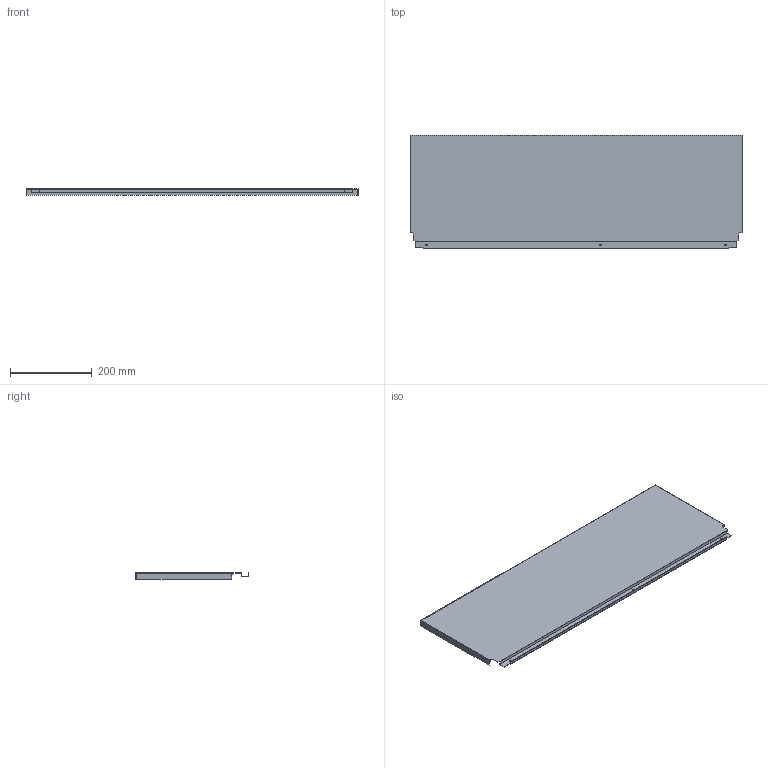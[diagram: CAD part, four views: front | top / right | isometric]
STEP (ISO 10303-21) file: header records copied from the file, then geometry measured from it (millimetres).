
FILE_DESCRIPTION (( 'STEP AP214' ), '1' );
FILE_NAME ('_DWD_XP Stahlrückwand_H278_KAB900_S18.step', '2010-07-08T13:04:00', ( 'grass' ), ( '' ), 'SwSTEP 2.0', 'SolidWorks 2010', '' );
FILE_SCHEMA (( 'AUTOMOTIVE_DESIGN' ));
Length unit declared in the file: millimetre
Products named in the file (1): _DWD_XP Stahlrückwand_H278_KAB900_S18
Bounding box: 813 x 278.57 x 16 mm (x, y, z)
Volume: 225705.8 mm3; surface area: 514951.7 mm2
Topology: 1 solids, 1 shells, 46 faces, 132 edges, 88 vertices
Faces by surface type: plane 40, cylinder 6
Entity records: 1534 total; most frequent: CARTESIAN_POINT 267, ORIENTED_EDGE 264, DIRECTION 238, EDGE_CURVE 132, VECTOR 120, LINE 120, VERTEX_POINT 88, AXIS2_PLACEMENT_3D 59
